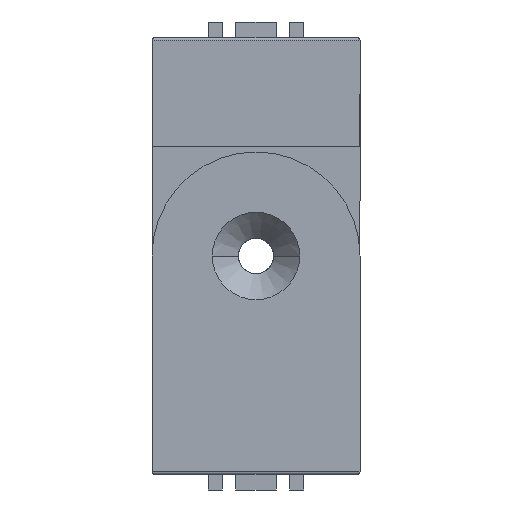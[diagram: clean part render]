
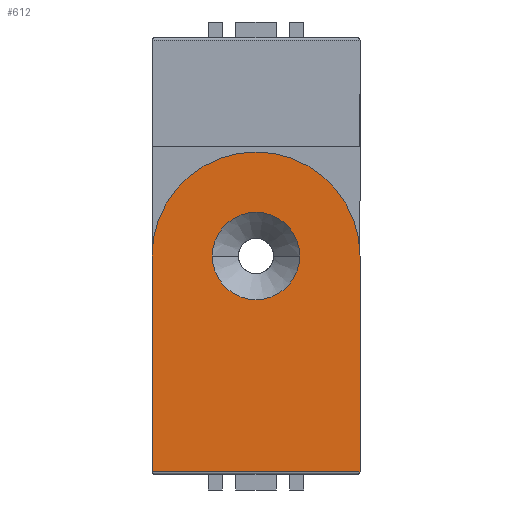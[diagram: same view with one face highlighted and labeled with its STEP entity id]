
A CAD part, left-side view. The second image highlights one B-rep face of the part: STEP entity #612.
In plain terms, the highlighted planar face has unit normal (-1, 0, 0).
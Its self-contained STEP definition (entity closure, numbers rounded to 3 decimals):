
#16 = LINE ( 'NONE', #5338, #4416 ) ;
#328 = CARTESIAN_POINT ( 'NONE',  ( -17.861, 21.765, 12.5 ) ) ;
#456 = ORIENTED_EDGE ( 'NONE', *, *, #2638, .T. ) ;
#497 = CARTESIAN_POINT ( 'NONE',  ( -17.861, 1.765, 54. ) ) ;
#534 = DIRECTION ( 'NONE',  ( 0., -1., 0. ) ) ;
#612 = ADVANCED_FACE ( 'NONE', ( #4690, #5583 ), #3446, .F. ) ;
#1160 = CARTESIAN_POINT ( 'NONE',  ( -17.861, -18.235, 12.5 ) ) ;
#1172 = VERTEX_POINT ( 'NONE', #3324 ) ;
#1243 = ORIENTED_EDGE ( 'NONE', *, *, #3858, .T. ) ;
#1503 = VECTOR ( 'NONE', #2630, 1000. ) ;
#1597 = DIRECTION ( 'NONE',  ( 0., -1., 0. ) ) ;
#1696 = ORIENTED_EDGE ( 'NONE', *, *, #2189, .F. ) ;
#1775 = LINE ( 'NONE', #1160, #5296 ) ;
#1961 = VERTEX_POINT ( 'NONE', #5025 ) ;
#2189 = EDGE_CURVE ( 'NONE', #3791, #5461, #5573, .T. ) ;
#2241 = DIRECTION ( 'NONE',  ( 1., 0., 0. ) ) ;
#2257 = CIRCLE ( 'NONE', #4123, 8.4 ) ;
#2539 = CARTESIAN_POINT ( 'NONE',  ( -17.861, -18.235, 54. ) ) ;
#2569 = ORIENTED_EDGE ( 'NONE', *, *, #5194, .T. ) ;
#2630 = DIRECTION ( 'NONE',  ( 0., 0., 1. ) ) ;
#2638 = EDGE_CURVE ( 'NONE', #1172, #3235, #16, .T. ) ;
#2851 = CARTESIAN_POINT ( 'NONE',  ( -17.861, 21.765, 12. ) ) ;
#2929 = ORIENTED_EDGE ( 'NONE', *, *, #5512, .F. ) ;
#3183 = CIRCLE ( 'NONE', #4157, 8.4 ) ;
#3218 = CARTESIAN_POINT ( 'NONE',  ( -17.861, 21.765, 12. ) ) ;
#3230 = DIRECTION ( 'NONE',  ( 0., 1., 0. ) ) ;
#3235 = VERTEX_POINT ( 'NONE', #2539 ) ;
#3324 = CARTESIAN_POINT ( 'NONE',  ( -17.861, -18.235, 12.5 ) ) ;
#3349 = VERTEX_POINT ( 'NONE', #4617 ) ;
#3446 = PLANE ( 'NONE',  #4849 ) ;
#3476 = ORIENTED_EDGE ( 'NONE', *, *, #4235, .T. ) ;
#3561 = AXIS2_PLACEMENT_3D ( 'NONE', #4410, #3812, #3230 ) ;
#3663 = CIRCLE ( 'NONE', #3561, 20. ) ;
#3677 = DIRECTION ( 'NONE',  ( 0., -1., 0. ) ) ;
#3791 = VERTEX_POINT ( 'NONE', #328 ) ;
#3812 = DIRECTION ( 'NONE',  ( 1., 0., 0. ) ) ;
#3858 = EDGE_CURVE ( 'NONE', #1961, #3349, #2257, .T. ) ;
#4123 = AXIS2_PLACEMENT_3D ( 'NONE', #497, #5808, #5196 ) ;
#4157 = AXIS2_PLACEMENT_3D ( 'NONE', #4856, #4263, #3677 ) ;
#4235 = EDGE_CURVE ( 'NONE', #3349, #1961, #3183, .T. ) ;
#4263 = DIRECTION ( 'NONE',  ( 1., 0., 0. ) ) ;
#4410 = CARTESIAN_POINT ( 'NONE',  ( -17.861, 1.765, 54. ) ) ;
#4416 = VECTOR ( 'NONE', #4753, 1000. ) ;
#4617 = CARTESIAN_POINT ( 'NONE',  ( -17.861, -6.635, 54. ) ) ;
#4690 = FACE_BOUND ( 'NONE', #5470, .T. ) ;
#4753 = DIRECTION ( 'NONE',  ( 0., 0., 1. ) ) ;
#4849 = AXIS2_PLACEMENT_3D ( 'NONE', #2851, #2241, #1597 ) ;
#4856 = CARTESIAN_POINT ( 'NONE',  ( -17.861, 1.765, 54. ) ) ;
#5025 = CARTESIAN_POINT ( 'NONE',  ( -17.861, 10.165, 54. ) ) ;
#5194 = EDGE_CURVE ( 'NONE', #3791, #1172, #1775, .T. ) ;
#5196 = DIRECTION ( 'NONE',  ( 0., -1., 0. ) ) ;
#5223 = EDGE_LOOP ( 'NONE', ( #1696, #2569, #456, #2929 ) ) ;
#5296 = VECTOR ( 'NONE', #534, 1000. ) ;
#5338 = CARTESIAN_POINT ( 'NONE',  ( -17.861, -18.235, 12. ) ) ;
#5461 = VERTEX_POINT ( 'NONE', #5585 ) ;
#5470 = EDGE_LOOP ( 'NONE', ( #1243, #3476 ) ) ;
#5512 = EDGE_CURVE ( 'NONE', #5461, #3235, #3663, .T. ) ;
#5573 = LINE ( 'NONE', #3218, #1503 ) ;
#5583 = FACE_OUTER_BOUND ( 'NONE', #5223, .T. ) ;
#5585 = CARTESIAN_POINT ( 'NONE',  ( -17.861, 21.765, 54. ) ) ;
#5808 = DIRECTION ( 'NONE',  ( 1., 0., 0. ) ) ;
